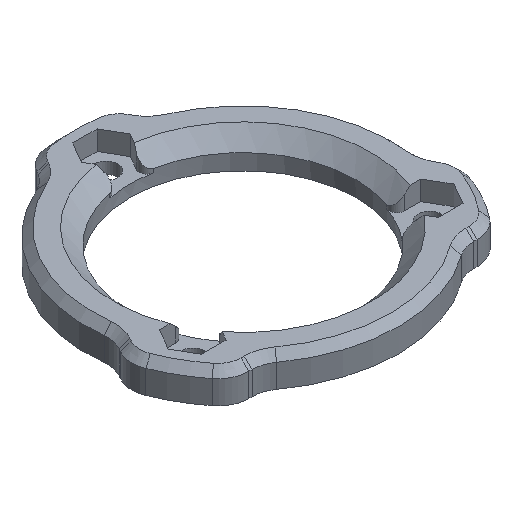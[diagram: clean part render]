
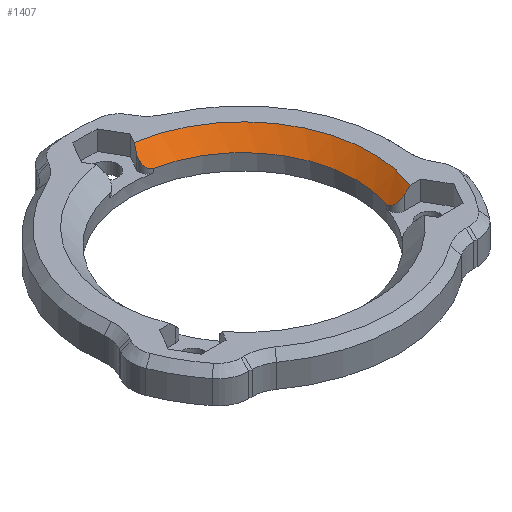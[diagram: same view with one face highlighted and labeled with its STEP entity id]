
A CAD part, isometric view. The second image highlights one B-rep face of the part: STEP entity #1407.
In plain terms, the highlighted conical face has half-angle 45 degrees and reference radius 14.5 mm.
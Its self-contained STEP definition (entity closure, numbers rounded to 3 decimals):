
#13=CONICAL_SURFACE('',#1565,14.5,0.785);
#36=B_SPLINE_CURVE_WITH_KNOTS('',3,(#2350,#2351,#2352,#2353),
 .UNSPECIFIED.,.F.,.F.,(4,4),(0.,0.001),.UNSPECIFIED.);
#38=B_SPLINE_CURVE_WITH_KNOTS('',3,(#2394,#2395,#2396,#2397),
 .UNSPECIFIED.,.F.,.F.,(4,4),(0.,0.001),.UNSPECIFIED.);
#40=B_SPLINE_CURVE_WITH_KNOTS('',3,(#2412,#2413,#2414,#2415,#2416),
 .UNSPECIFIED.,.F.,.F.,(4,1,4),(0.,0.001,0.002),
 .UNSPECIFIED.);
#43=B_SPLINE_CURVE_WITH_KNOTS('',3,(#2430,#2431,#2432,#2433,#2434),
 .UNSPECIFIED.,.F.,.F.,(4,1,4),(0.,0.001,0.002),
 .UNSPECIFIED.);
#577=ORIENTED_EDGE('',*,*,#894,.F.);
#578=ORIENTED_EDGE('',*,*,#837,.F.);
#579=ORIENTED_EDGE('',*,*,#874,.F.);
#580=ORIENTED_EDGE('',*,*,#903,.F.);
#581=ORIENTED_EDGE('',*,*,#739,.F.);
#582=ORIENTED_EDGE('',*,*,#900,.F.);
#739=EDGE_CURVE('',#947,#948,#1077,.T.);
#837=EDGE_CURVE('',#1045,#1046,#1119,.F.);
#874=EDGE_CURVE('',#1062,#1045,#36,.T.);
#894=EDGE_CURVE('',#1046,#1072,#38,.T.);
#900=EDGE_CURVE('',#1072,#947,#40,.T.);
#903=EDGE_CURVE('',#948,#1062,#43,.T.);
#947=VERTEX_POINT('',#2065);
#948=VERTEX_POINT('',#2067);
#1045=VERTEX_POINT('',#2277);
#1046=VERTEX_POINT('',#2279);
#1062=VERTEX_POINT('',#2349);
#1072=VERTEX_POINT('',#2398);
#1077=CIRCLE('',#1462,14.5);
#1119=CIRCLE('',#1520,16.5);
#1205=EDGE_LOOP('',(#577,#578,#579,#580,#581,#582));
#1298=FACE_BOUND('',#1205,.T.);
#1407=ADVANCED_FACE('',(#1298),#13,.F.);
#1462=AXIS2_PLACEMENT_3D('',#2066,#1628,#1629);
#1520=AXIS2_PLACEMENT_3D('',#2278,#1800,#1801);
#1565=AXIS2_PLACEMENT_3D('',#2442,#1927,#1928);
#1628=DIRECTION('',(0.,0.,1.));
#1629=DIRECTION('',(1.,0.,0.));
#1800=DIRECTION('',(0.,0.,1.));
#1801=DIRECTION('',(1.,0.,0.));
#1927=DIRECTION('',(0.,0.,1.));
#1928=DIRECTION('',(1.,0.,0.));
#2065=CARTESIAN_POINT('',(13.709,-4.724,2.));
#2066=CARTESIAN_POINT('',(0.,0.,2.));
#2067=CARTESIAN_POINT('',(2.763,14.234,2.));
#2277=CARTESIAN_POINT('',(2.436,16.319,4.));
#2278=CARTESIAN_POINT('',(0.,0.,4.));
#2279=CARTESIAN_POINT('',(15.351,-6.05,4.));
#2349=CARTESIAN_POINT('',(2.088,15.716,3.354));
#2350=CARTESIAN_POINT('',(2.088,15.716,3.354));
#2351=CARTESIAN_POINT('',(2.204,15.917,3.569));
#2352=CARTESIAN_POINT('',(2.32,16.118,3.784));
#2353=CARTESIAN_POINT('',(2.436,16.319,4.));
#2394=CARTESIAN_POINT('',(15.351,-6.05,4.));
#2395=CARTESIAN_POINT('',(15.119,-6.05,3.784));
#2396=CARTESIAN_POINT('',(14.887,-6.05,3.569));
#2397=CARTESIAN_POINT('',(14.654,-6.05,3.354));
#2398=CARTESIAN_POINT('',(14.654,-6.05,3.354));
#2412=CARTESIAN_POINT('',(14.654,-6.05,3.354));
#2413=CARTESIAN_POINT('',(14.36,-6.05,3.082));
#2414=CARTESIAN_POINT('',(13.832,-5.835,2.511));
#2415=CARTESIAN_POINT('',(13.577,-5.106,2.));
#2416=CARTESIAN_POINT('',(13.709,-4.724,2.));
#2430=CARTESIAN_POINT('',(2.763,14.234,2.));
#2431=CARTESIAN_POINT('',(2.367,14.311,2.));
#2432=CARTESIAN_POINT('',(1.864,14.891,2.506));
#2433=CARTESIAN_POINT('',(1.941,15.461,3.082));
#2434=CARTESIAN_POINT('',(2.088,15.716,3.354));
#2442=CARTESIAN_POINT('',(0.,0.,2.));
